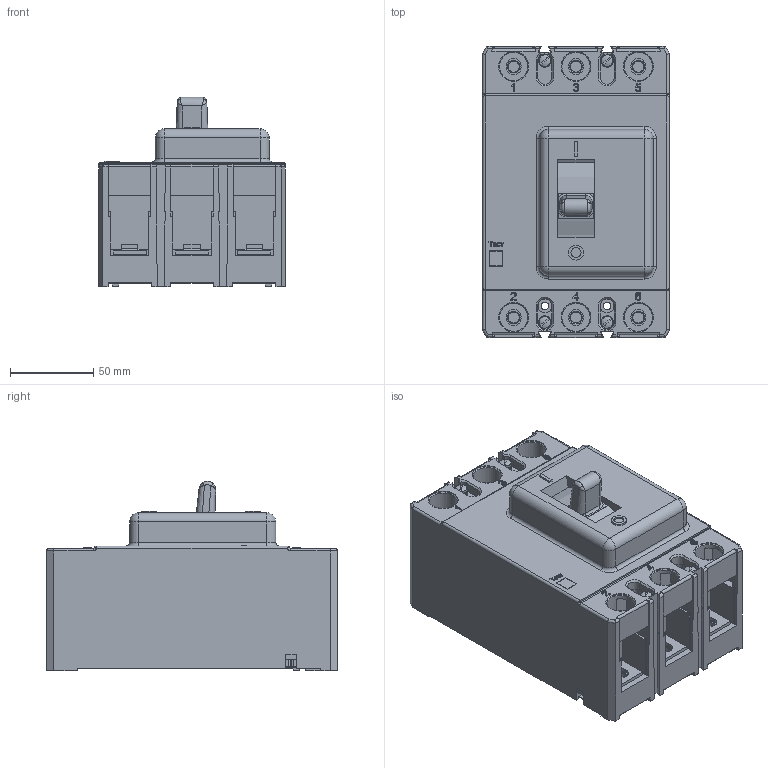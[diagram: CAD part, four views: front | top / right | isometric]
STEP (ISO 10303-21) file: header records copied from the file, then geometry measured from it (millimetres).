
FILE_DESCRIPTION (( 'STEP AP203' ), '1' );
FILE_NAME ('臍04-36.STEP', '2020-12-11T05:29:34', ( '' ), ( '' ), 'SwSTEP 2.0', 'SolidWorks 2018', '' );
FILE_SCHEMA (( 'CONFIG_CONTROL_DESIGN' ));
Length unit declared in the file: millimetre
Products named in the file (1): 臍04-36
Bounding box: 112.5 x 175 x 113.9 mm (x, y, z)
Volume: 1357312.2 mm3; surface area: 137170 mm2
Topology: 1 solids, 1 shells, 1138 faces, 3089 edges, 2007 vertices
Faces by surface type: plane 779, cylinder 206, bspline 87, sphere 32, cone 26, torus 8
Full cylindrical faces by diameter (mm): 4 x10, 4.5 x4, 6.09 x1, 6.6 x4, 6.65 x6, 7 x4, 7.2 x4, 8 x4, 8.2 x4, 8.31 x2, 9 x1, 17 x6, 18 x6
Entity records: 39653 total; most frequent: CARTESIAN_POINT 11814, ORIENTED_EDGE 5914, DIRECTION 5380, EDGE_CURVE 2957, VECTOR 2166, LINE 2166, VERTEX_POINT 1957, AXIS2_PLACEMENT_3D 1607
